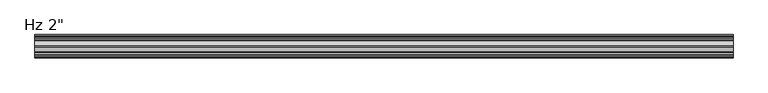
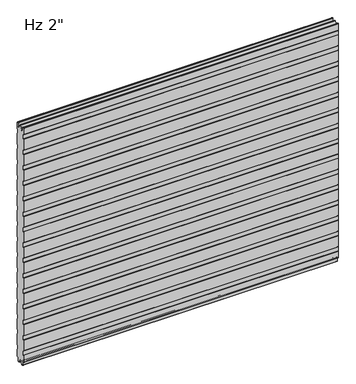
"""IFC4 building model written with IfcOpenShell, lengths in millimetres: plate geometry."""

from ifc_helpers import new_model, si_unit, frame, origin, place, context, project, spatial, polyline, circle_curve, source, transform, mapped, element, save
from ifc_brep_helpers import plane_surface, cylinder_surface, revolved_surface, advanced_brep


def plate_fe6489eb(model_context):
    return source(origin(), model_context, "Body", "AdvancedBrep", [
        advanced_brep(
        [(-730.0, -47.8224577, 3.8505994), (-730.0, -49.8005126, 5.8286544), (-730.0, -49.8005126, 37.993811), (-730.0, -48.6088405, 39.0663358), (-730.0, -48.6088405, 58.8493305), (-730.0, -49.8, 59.9218553), (-730.0, -49.8, 113.6164312), (-730.0, -48.6088405, 114.6889561), (-730.0, -48.6088405, 134.4719507), (-730.0, -49.8, 135.5444756), (-730.0, -49.8, 189.2390515), (-730.0, -48.6088405, 190.3115763), (-730.0, -48.6088405, 210.094571), (-730.0, -49.8, 211.1670958), (-730.0, -49.8, 264.8616718), (-730.0, -48.6088405, 265.9341966), (-730.0, -48.6088405, 285.7171913), (-730.0, -49.8, 286.7897161), (-730.0, -49.8, 340.484292), (-730.0, -48.6088405, 341.5568169), (-730.0, -48.6088405, 361.3398115), (-730.0, -49.8, 362.4123364), (-730.0, -49.8, 416.1069123), (-730.0, -48.6088405, 417.1794371), (-730.0, -48.6088405, 436.9624318), (-730.0, -49.8, 438.0349566), (-730.0, -49.8, 491.7295325), (-730.0, -48.6088405, 492.8020574), (-730.0, -48.6088405, 512.5850521), (-730.0, -49.8, 513.6575769), (-730.0, -49.8, 567.3521528), (-730.0, -48.6088405, 568.4246776), (-730.0, -48.6088405, 588.2076723), (-730.0, -49.8, 589.2801972), (-730.0, -49.8, 642.9747731), (-730.0, -48.6088405, 644.0472979), (-730.0, -48.6088405, 663.8302926), (-730.0, -49.8, 664.9028174), (-730.0, -49.8, 718.5973933), (-730.0, -48.6088405, 719.6699182), (-730.0, -48.6088405, 739.4529129), (-730.0, -49.8, 740.5254377), (-730.0, -49.8, 794.2200136), (-730.0, -48.6088405, 795.2925384), (-730.0, -48.6088405, 815.0755331), (-730.0, -49.8, 816.148058), (-730.0, -49.8, 869.8426339), (-730.0, -48.6088405, 870.9151587), (-730.0, -48.6088405, 890.6981534), (-730.0, -49.8, 891.7706782), (-730.0, -49.8, 945.4652541), (-730.0, -48.6088405, 946.537779), (-730.0, -48.6088405, 966.3207736), (-730.0, -49.8, 967.3932985), (-730.0, -49.8, 1021.0878744), (-730.0, -48.6088405, 1022.1603992), (-730.0, -48.6088405, 1041.9433939), (-730.0, -49.8, 1043.0159187), (-730.0, -49.8, 1096.7104947), (-730.0, -48.6088405, 1097.7830195), (-730.0, -48.6088405, 1117.5660142), (-730.0, -49.7994792, 1118.6385351), (-730.0, -49.7994792, 1150.811495), (-730.0, -47.8229897, 1152.7879845), (-730.0, -46.7807951, 1152.7879845), (-730.0, -44.8032009, 1150.8103903), (-730.0, -44.8032009, 1136.6216411), (-730.0, -42.2154073, 1134.0338476), (-730.0, -37.8950765, 1134.0338476), (-730.0, -37.3060626, 1133.4253475), (-730.0, -37.3060626, 1131.0482432), (-730.0, -36.3066023, 1131.0482432), (-730.0, -36.3066023, 1136.4905123), (-730.0, -27.0490865, 1152.525), (-730.0, -23.7509179, 1152.525), (-730.0, -14.4934021, 1136.4905123), (-730.0, -14.4934021, 1131.0482432), (-730.0, -13.4939282, 1131.0482432), (-730.0, -13.4939282, 1133.4253365), (-730.0, -12.9049347, 1134.0338036), (-730.0, -8.5845165, 1134.0338036), (-730.0, -5.99664, 1136.6216802), (-730.0, -5.99664, 1150.8100652), (-730.0, -4.0193715, 1152.7873337), (-730.0, -2.9772729, 1152.7873337), (-730.0, -1.0000044, 1150.8100652), (-730.0, -1.0000044, 1118.6390042), (-730.0, -2.1911639, 1117.5660142), (-730.0, -2.1911639, 1097.7830195), (-730.0, -1.0000044, 1096.7104947), (-730.0, -1.0000044, 1043.0159187), (-730.0, -2.1911639, 1041.9433939), (-730.0, -2.1911639, 1022.1603992), (-730.0, -1.0000044, 1021.0878744), (-730.0, -1.0000044, 967.3932985), (-730.0, -2.1911639, 966.3207736), (-730.0, -2.1911639, 946.537779), (-730.0, -1.0000044, 945.4652541), (-730.0, -1.0000044, 891.7706782), (-730.0, -2.1911639, 890.6981534), (-730.0, -2.1911639, 870.9151587), (-730.0, -1.0000044, 869.8426339), (-730.0, -1.0000044, 816.148058), (-730.0, -2.1911639, 815.0755331), (-730.0, -2.1911639, 795.2925384), (-730.0, -1.0000044, 794.2200136), (-730.0, -1.0000044, 740.5254377), (-730.0, -2.1911639, 739.4529129), (-730.0, -2.1911639, 719.6699182), (-730.0, -1.0000044, 718.5973933), (-730.0, -1.0000044, 664.9028174), (-730.0, -2.1911639, 663.8302926), (-730.0, -2.1911639, 644.0472979), (-730.0, -1.0000044, 642.9747731), (-730.0, -1.0000044, 589.2801972), (-730.0, -2.1911639, 588.2076723), (-730.0, -2.1911639, 568.4246776), (-730.0, -1.0000044, 567.3521528), (-730.0, -1.0000044, 513.6575769), (-730.0, -2.1911639, 512.5850521), (-730.0, -2.1911639, 492.8020574), (-730.0, -1.0000044, 491.7295325), (-730.0, -1.0000044, 438.0349566), (-730.0, -2.1911639, 436.9624318), (-730.0, -2.1911639, 417.1794371), (-730.0, -1.0000044, 416.1069123), (-730.0, -1.0000044, 362.4123364), (-730.0, -2.1911639, 361.3398115), (-730.0, -2.1911639, 341.5568169), (-730.0, -1.0000044, 340.484292), (-730.0, -1.0000044, 286.7897161), (-730.0, -2.1911639, 285.7171913), (-730.0, -2.1911639, 265.9341966), (-730.0, -1.0000044, 264.8616718), (-730.0, -1.0000044, 211.1670958), (-730.0, -2.1911639, 210.094571), (-730.0, -2.1911639, 190.3115763), (-730.0, -1.0000044, 189.2390515), (-730.0, -1.0000044, 135.5444756), (-730.0, -2.1911639, 134.4719507), (-730.0, -2.1911639, 114.6889561), (-730.0, -1.0000044, 113.6164312), (-730.0, -1.0000044, 59.9218553), (-730.0, -2.1911639, 58.8493305), (-730.0, -2.1911639, 39.0663358), (-730.0, -0.9994917, 37.993811), (-730.0, -0.9994917, 5.8272239), (-730.0, -2.9772849, 3.8499499), (-730.0, -5.2691749, 3.8499499), (-730.0, -9.246442, -0.1273173), (-730.0, -9.246442, -15.7237417), (-730.0, -9.8343189, -16.3116186), (-730.0, -12.9058679, -16.3116186), (-730.0, -13.4937446, -15.723742), (-730.0, -13.4937446, -13.3687064), (-730.0, -14.4937446, -13.3687064), (-730.0, -14.4937446, -15.6582851), (-730.0, -23.7509179, 0.0), (-730.0, -27.0490865, 0.0), (-730.0, -36.3062598, -15.6582851), (-730.0, -36.3062598, -13.3687064), (-730.0, -37.306275, -13.3687064), (-730.0, -37.306275, -15.723723), (-730.0, -37.8941288, -16.3115768), (-730.0, -40.9656046, -16.3115768), (-730.0, -41.5533997, -15.7237817), (-730.0, -41.5533997, -0.1269926), (-730.0, -45.5309917, 3.8505994), (730.0, -47.8224577, 3.8505994), (730.0, -45.5309917, 3.8505994), (730.0, -41.5533997, -0.1269926), (730.0, -41.5533997, -15.7237817), (730.0, -40.9656046, -16.3115768), (730.0, -37.8941288, -16.3115768), (730.0, -37.306275, -15.723723), (730.0, -37.306275, -13.3687064), (730.0, -36.3062598, -13.3687064), (730.0, -36.3062598, -15.6582851), (730.0, -27.0490865, 0.0), (730.0, -23.7509179, 0.0), (730.0, -14.4937446, -15.6582851), (730.0, -14.4937446, -13.3687064), (730.0, -13.4937446, -13.3687064), (730.0, -13.4937446, -15.723742), (730.0, -12.9058679, -16.3116186), (730.0, -9.8343189, -16.3116186), (730.0, -9.246442, -15.7237417), (730.0, -9.246442, -0.1273173), (730.0, -5.2691749, 3.8499499), (730.0, -2.9772849, 3.8499499), (730.0, -1.0000109, 5.8272239), (730.0, -0.9994917, 37.993811), (730.0, -2.1911639, 39.0663358), (730.0, -2.1911639, 58.8493305), (730.0, -1.0000044, 59.9218553), (730.0, -1.0000044, 113.6164312), (730.0, -2.1911639, 114.6889561), (730.0, -2.1911639, 134.4719507), (730.0, -1.0000044, 135.5444756), (730.0, -1.0000044, 189.2390515), (730.0, -2.1911639, 190.3115763), (730.0, -2.1911639, 210.094571), (730.0, -1.0000044, 211.1670958), (730.0, -1.0000044, 264.8616718), (730.0, -2.1911639, 265.9341966), (730.0, -2.1911639, 285.7171913), (730.0, -1.0000044, 286.7897161), (730.0, -1.0000044, 340.484292), (730.0, -2.1911639, 341.5568169), (730.0, -2.1911639, 361.3398115), (730.0, -1.0000044, 362.4123364), (730.0, -1.0000044, 416.1069123), (730.0, -2.1911639, 417.1794371), (730.0, -2.1911639, 436.9624318), (730.0, -1.0000044, 438.0349566), (730.0, -1.0000044, 491.7295325), (730.0, -2.1911639, 492.8020574), (730.0, -2.1911639, 512.5850521), (730.0, -1.0000044, 513.6575769), (730.0, -1.0000044, 567.3521528), (730.0, -2.1911639, 568.4246776), (730.0, -2.1911639, 588.2076723), (730.0, -1.0000044, 589.2801972), (730.0, -1.0000044, 642.9747731), (730.0, -2.1911639, 644.0472979), (730.0, -2.1911639, 663.8302926), (730.0, -1.0000044, 664.9028174), (730.0, -1.0000044, 718.5973933), (730.0, -2.1911639, 719.6699182), (730.0, -2.1911639, 739.4529129), (730.0, -1.0000044, 740.5254377), (730.0, -1.0000044, 794.2200136), (730.0, -2.1911639, 795.2925384), (730.0, -2.1911639, 815.0755331), (730.0, -1.0000044, 816.148058), (730.0, -1.0000044, 869.8426339), (730.0, -2.1911639, 870.9151587), (730.0, -2.1911639, 890.6981534), (730.0, -1.0000044, 891.7706782), (730.0, -1.0000044, 945.4652541), (730.0, -2.1911639, 946.537779), (730.0, -2.1911639, 966.3207736), (730.0, -1.0000044, 967.3932985), (730.0, -1.0000044, 1021.0878744), (730.0, -2.1911639, 1022.1603992), (730.0, -2.1911639, 1041.9433939), (730.0, -1.0000044, 1043.0159187), (730.0, -1.0000044, 1096.7104947), (730.0, -2.1911639, 1097.7830195), (730.0, -2.1911639, 1117.5660142), (730.0, -1.0000044, 1118.6390042), (730.0, -1.0000044, 1150.8100652), (730.0, -2.9772729, 1152.7873337), (730.0, -4.0193715, 1152.7873337), (730.0, -5.99664, 1150.8100652), (730.0, -5.99664, 1136.6216802), (730.0, -8.5845165, 1134.0338036), (730.0, -12.9049347, 1134.0338036), (730.0, -13.4939282, 1133.4253365), (730.0, -13.4939282, 1131.0482432), (730.0, -14.4934021, 1131.0482432), (730.0, -14.4934021, 1136.4905123), (730.0, -23.7509179, 1152.525), (730.0, -27.0490865, 1152.525), (730.0, -36.3066023, 1136.4905123), (730.0, -36.3066023, 1131.0482432), (730.0, -37.3060626, 1131.0482432), (730.0, -37.3060626, 1133.4253475), (730.0, -37.8950765, 1134.0338476), (730.0, -42.2154073, 1134.0338476), (730.0, -44.8032009, 1136.6216411), (730.0, -44.8032009, 1150.8103903), (730.0, -46.7807951, 1152.7879845), (730.0, -47.8229897, 1152.7879845), (730.0, -49.7994792, 1150.811495), (730.0, -49.7994792, 1118.6385351), (730.0, -48.6088405, 1117.5660142), (730.0, -48.6088405, 1097.7830195), (730.0, -49.8, 1096.7104947), (730.0, -49.8, 1043.0159187), (730.0, -48.6088405, 1041.9433939), (730.0, -48.6088405, 1022.1603992), (730.0, -49.8, 1021.0878744), (730.0, -49.8, 967.3932985), (730.0, -48.6088405, 966.3207736), (730.0, -48.6088405, 946.537779), (730.0, -49.8, 945.4652541), (730.0, -49.8, 891.7706782), (730.0, -48.6088405, 890.6981534), (730.0, -48.6088405, 870.9151587), (730.0, -49.8, 869.8426339), (730.0, -49.8, 816.148058), (730.0, -48.6088405, 815.0755331), (730.0, -48.6088405, 795.2925384), (730.0, -49.8, 794.2200136), (730.0, -49.8, 740.5254377), (730.0, -48.6088405, 739.4529129), (730.0, -48.6088405, 719.6699182), (730.0, -49.8, 718.5973933), (730.0, -49.8, 664.9028174), (730.0, -48.6088405, 663.8302926), (730.0, -48.6088405, 644.0472979), (730.0, -49.8, 642.9747731), (730.0, -49.8, 589.2801972), (730.0, -48.6088405, 588.2076723), (730.0, -48.6088405, 568.4246776), (730.0, -49.8, 567.3521528), (730.0, -49.8, 513.6575769), (730.0, -48.6088405, 512.5850521), (730.0, -48.6088405, 492.8020574), (730.0, -49.8, 491.7295325), (730.0, -49.8, 438.0349566), (730.0, -48.6088405, 436.9624318), (730.0, -48.6088405, 417.1794371), (730.0, -49.8, 416.1069123), (730.0, -49.8, 362.4123364), (730.0, -48.6088405, 361.3398115), (730.0, -48.6088405, 341.5568169), (730.0, -49.8, 340.484292), (730.0, -49.8, 286.7897161), (730.0, -48.6088405, 285.7171913), (730.0, -48.6088405, 265.9341966), (730.0, -49.8, 264.8616718), (730.0, -49.8, 211.1670958), (730.0, -48.6088405, 210.094571), (730.0, -48.6088405, 190.3115763), (730.0, -49.8, 189.2390515), (730.0, -49.8, 135.5444756), (730.0, -48.6088405, 134.4719507), (730.0, -48.6088405, 114.6889561), (730.0, -49.8, 113.6164312), (730.0, -49.8, 59.9218553), (730.0, -48.6088405, 58.8493305), (730.0, -48.6088405, 39.0663358), (730.0, -49.8005126, 37.993811), (730.0, -49.8005126, 5.8286544)],
        [
            (0, 1, circle_curve(frame((-730.0, -47.8224577, 5.8286544), z_axis=(-1.0, 0.0, 0.0), x_axis=(0.0, 0.0, -1.0)), 1.978055)),
            (1, 2),
            (2, 3),
            (3, 4),
            (4, 5),
            (5, 6),
            (6, 7),
            (7, 8),
            (8, 9),
            (9, 10),
            (10, 11),
            (11, 12),
            (12, 13),
            (13, 14),
            (14, 15),
            (15, 16),
            (16, 17),
            (17, 18),
            (18, 19),
            (19, 20),
            (20, 21),
            (21, 22),
            (22, 23),
            (23, 24),
            (24, 25),
            (25, 26),
            (26, 27),
            (27, 28),
            (28, 29),
            (29, 30),
            (30, 31),
            (31, 32),
            (32, 33),
            (33, 34),
            (34, 35),
            (35, 36),
            (36, 37),
            (37, 38),
            (38, 39),
            (39, 40),
            (40, 41),
            (41, 42),
            (42, 43),
            (43, 44),
            (44, 45),
            (45, 46),
            (46, 47),
            (47, 48),
            (48, 49),
            (49, 50),
            (50, 51),
            (51, 52),
            (52, 53),
            (53, 54),
            (54, 55),
            (55, 56),
            (56, 57),
            (57, 58),
            (58, 59),
            (59, 60),
            (60, 61),
            (61, 62),
            (62, 63, circle_curve(frame((-730.0, -47.8229897, 1150.811495), z_axis=(-1.0, 0.0, 0.0), x_axis=(0.0, 0.0, -1.0)), 1.9764896)),
            (63, 64),
            (64, 65, circle_curve(frame((-730.0, -46.7807951, 1150.8103903), z_axis=(-1.0, 0.0, 0.0), x_axis=(0.0, 0.0, -1.0)), 1.9775943)),
            (65, 66),
            (66, 67, circle_curve(frame((-730.0, -42.2154073, 1136.6216411), z_axis=(1.0, 0.0, 0.0), x_axis=(0.0, 0.0, -1.0)), 2.5877935)),
            (67, 68),
            (68, 69, circle_curve(frame((-730.0, -37.8950765, 1133.4445216), z_axis=(-1.0, 0.0, 0.0), x_axis=(0.0, 0.0, -1.0)), 0.589326)),
            (69, 70),
            (70, 71),
            (71, 72),
            (72, 73),
            (73, 74),
            (74, 75),
            (75, 76),
            (76, 77),
            (77, 78),
            (78, 79, circle_curve(frame((-730.0, -12.9049347, 1133.4444985), z_axis=(-1.0, 0.0, 0.0), x_axis=(0.0, 0.0, -1.0)), 0.5893051)),
            (79, 80),
            (80, 81, circle_curve(frame((-730.0, -8.5845165, 1136.6216802), z_axis=(1.0, 0.0, 0.0), x_axis=(0.0, 0.0, -1.0)), 2.5878765)),
            (81, 82),
            (82, 83, circle_curve(frame((-730.0, -4.0193715, 1150.8100652), z_axis=(-1.0, 0.0, 0.0), x_axis=(0.0, 0.0, -1.0)), 1.9772685)),
            (83, 84),
            (84, 85, circle_curve(frame((-730.0, -2.9772729, 1150.8100652), z_axis=(-1.0, 0.0, 0.0), x_axis=(0.0, 0.0, -1.0)), 1.9772685)),
            (85, 86),
            (86, 87),
            (87, 88),
            (88, 89),
            (89, 90),
            (90, 91),
            (91, 92),
            (92, 93),
            (93, 94),
            (94, 95),
            (95, 96),
            (96, 97),
            (97, 98),
            (98, 99),
            (99, 100),
            (100, 101),
            (101, 102),
            (102, 103),
            (103, 104),
            (104, 105),
            (105, 106),
            (106, 107),
            (107, 108),
            (108, 109),
            (109, 110),
            (110, 111),
            (111, 112),
            (112, 113),
            (113, 114),
            (114, 115),
            (115, 116),
            (116, 117),
            (117, 118),
            (118, 119),
            (119, 120),
            (120, 121),
            (121, 122),
            (122, 123),
            (123, 124),
            (124, 125),
            (125, 126),
            (126, 127),
            (127, 128),
            (128, 129),
            (129, 130),
            (130, 131),
            (131, 132),
            (132, 133),
            (133, 134),
            (134, 135),
            (135, 136),
            (136, 137),
            (137, 138),
            (138, 139),
            (139, 140),
            (140, 141),
            (141, 142),
            (142, 143),
            (143, 144),
            (144, 145),
            (145, 146),
            (146, 147, circle_curve(frame((-730.0, -2.9772849, 5.8272239), z_axis=(-1.0, 0.0, 0.0), x_axis=(0.0, 0.0, -1.0)), 1.977274)),
            (147, 148),
            (148, 149, circle_curve(frame((-730.0, -5.2691749, -0.1273173), z_axis=(1.0, 0.0, 0.0), x_axis=(0.0, 0.0, -1.0)), 3.9772671)),
            (149, 150),
            (150, 151, circle_curve(frame((-730.0, -9.8343189, -15.7237417), z_axis=(-1.0, 0.0, 0.0), x_axis=(0.0, 0.0, -1.0)), 0.5878769)),
            (151, 152),
            (152, 153, circle_curve(frame((-730.0, -12.9058679, -15.723742), z_axis=(-1.0, 0.0, 0.0), x_axis=(0.0, 0.0, -1.0)), 0.5878766)),
            (153, 154),
            (154, 155),
            (155, 156),
            (156, 157),
            (157, 158),
            (158, 159),
            (159, 160),
            (160, 161),
            (161, 162),
            (162, 163, circle_curve(frame((-730.0, -37.8941288, -15.723723), z_axis=(-1.0, 0.0, 0.0), x_axis=(0.0, 0.0, -1.0)), 0.5878538)),
            (163, 164),
            (164, 165, circle_curve(frame((-730.0, -40.9656046, -15.7237817), z_axis=(-1.0, 0.0, 0.0), x_axis=(0.0, 0.0, -1.0)), 0.5877951)),
            (165, 166),
            (166, 167, circle_curve(frame((-730.0, -45.5309917, -0.1269926), z_axis=(1.0, 0.0, 0.0), x_axis=(0.0, 0.0, -1.0)), 3.977592)),
            (167, 0),
            (168, 169),
            (169, 170, circle_curve(frame((730.0, -45.5309917, -0.1269926), z_axis=(-1.0, 0.0, 0.0), x_axis=(0.0, 0.0, -1.0)), 3.977592)),
            (170, 171),
            (171, 172, circle_curve(frame((730.0, -40.9656046, -15.7237817), z_axis=(1.0, 0.0, 0.0), x_axis=(0.0, 0.0, -1.0)), 0.5877951)),
            (172, 173),
            (173, 174, circle_curve(frame((730.0, -37.8941288, -15.723723), z_axis=(1.0, 0.0, 0.0), x_axis=(0.0, 0.0, -1.0)), 0.5878538)),
            (174, 175),
            (175, 176),
            (176, 177),
            (177, 178),
            (178, 179),
            (179, 180),
            (180, 181),
            (181, 182),
            (182, 183),
            (183, 184, circle_curve(frame((730.0, -12.9058679, -15.723742), z_axis=(1.0, 0.0, 0.0), x_axis=(0.0, 0.0, -1.0)), 0.5878766)),
            (184, 185),
            (185, 186, circle_curve(frame((730.0, -9.8343189, -15.7237417), z_axis=(1.0, 0.0, 0.0), x_axis=(0.0, 0.0, -1.0)), 0.5878769)),
            (186, 187),
            (187, 188, circle_curve(frame((730.0, -5.2691749, -0.1273173), z_axis=(-1.0, 0.0, 0.0), x_axis=(0.0, 0.0, -1.0)), 3.9772671)),
            (188, 189),
            (189, 190, circle_curve(frame((730.0, -2.9772849, 5.8272239), z_axis=(1.0, 0.0, 0.0), x_axis=(0.0, 0.0, -1.0)), 1.977274)),
            (190, 191),
            (191, 192),
            (192, 193),
            (193, 194),
            (194, 195),
            (195, 196),
            (196, 197),
            (197, 198),
            (198, 199),
            (199, 200),
            (200, 201),
            (201, 202),
            (202, 203),
            (203, 204),
            (204, 205),
            (205, 206),
            (206, 207),
            (207, 208),
            (208, 209),
            (209, 210),
            (210, 211),
            (211, 212),
            (212, 213),
            (213, 214),
            (214, 215),
            (215, 216),
            (216, 217),
            (217, 218),
            (218, 219),
            (219, 220),
            (220, 221),
            (221, 222),
            (222, 223),
            (223, 224),
            (224, 225),
            (225, 226),
            (226, 227),
            (227, 228),
            (228, 229),
            (229, 230),
            (230, 231),
            (231, 232),
            (232, 233),
            (233, 234),
            (234, 235),
            (235, 236),
            (236, 237),
            (237, 238),
            (238, 239),
            (239, 240),
            (240, 241),
            (241, 242),
            (242, 243),
            (243, 244),
            (244, 245),
            (245, 246),
            (246, 247),
            (247, 248),
            (248, 249),
            (249, 250),
            (250, 251),
            (251, 252, circle_curve(frame((730.0, -2.9772729, 1150.8100652), z_axis=(1.0, 0.0, 0.0), x_axis=(0.0, 0.0, -1.0)), 1.9772685)),
            (252, 253),
            (253, 254, circle_curve(frame((730.0, -4.0193715, 1150.8100652), z_axis=(1.0, 0.0, 0.0), x_axis=(0.0, 0.0, -1.0)), 1.9772685)),
            (254, 255),
            (255, 256, circle_curve(frame((730.0, -8.5845165, 1136.6216802), z_axis=(-1.0, 0.0, 0.0), x_axis=(0.0, 0.0, -1.0)), 2.5878765)),
            (256, 257),
            (257, 258, circle_curve(frame((730.0, -12.9049347, 1133.4444985), z_axis=(1.0, 0.0, 0.0), x_axis=(0.0, 0.0, -1.0)), 0.5893051)),
            (258, 259),
            (259, 260),
            (260, 261),
            (261, 262),
            (262, 263),
            (263, 264),
            (264, 265),
            (265, 266),
            (266, 267),
            (267, 268, circle_curve(frame((730.0, -37.8950765, 1133.4445216), z_axis=(1.0, 0.0, 0.0), x_axis=(0.0, 0.0, -1.0)), 0.589326)),
            (268, 269),
            (269, 270, circle_curve(frame((730.0, -42.2154073, 1136.6216411), z_axis=(-1.0, 0.0, 0.0), x_axis=(0.0, 0.0, -1.0)), 2.5877935)),
            (270, 271),
            (271, 272, circle_curve(frame((730.0, -46.7807951, 1150.8103903), z_axis=(1.0, 0.0, 0.0), x_axis=(0.0, 0.0, -1.0)), 1.9775943)),
            (272, 273),
            (273, 274, circle_curve(frame((730.0, -47.8229897, 1150.811495), z_axis=(1.0, 0.0, 0.0), x_axis=(0.0, 0.0, -1.0)), 1.9764896)),
            (274, 275),
            (275, 276),
            (276, 277),
            (277, 278),
            (278, 279),
            (279, 280),
            (280, 281),
            (281, 282),
            (282, 283),
            (283, 284),
            (284, 285),
            (285, 286),
            (286, 287),
            (287, 288),
            (288, 289),
            (289, 290),
            (290, 291),
            (291, 292),
            (292, 293),
            (293, 294),
            (294, 295),
            (295, 296),
            (296, 297),
            (297, 298),
            (298, 299),
            (299, 300),
            (300, 301),
            (301, 302),
            (302, 303),
            (303, 304),
            (304, 305),
            (305, 306),
            (306, 307),
            (307, 308),
            (308, 309),
            (309, 310),
            (310, 311),
            (311, 312),
            (312, 313),
            (313, 314),
            (314, 315),
            (315, 316),
            (316, 317),
            (317, 318),
            (318, 319),
            (319, 320),
            (320, 321),
            (321, 322),
            (322, 323),
            (323, 324),
            (324, 325),
            (325, 326),
            (326, 327),
            (327, 328),
            (328, 329),
            (329, 330),
            (330, 331),
            (331, 332),
            (332, 333),
            (333, 334),
            (334, 335),
            (335, 168, circle_curve(frame((730.0, -47.8224577, 5.8286544), z_axis=(1.0, 0.0, 0.0), x_axis=(0.0, 0.0, -1.0)), 1.978055)),
            (167, 169),
            (168, 0),
            (166, 170),
            (165, 171),
            (164, 172),
            (163, 173),
            (162, 174),
            (161, 175),
            (160, 176),
            (159, 177),
            (158, 178),
            (157, 179),
            (156, 180),
            (155, 181),
            (154, 182),
            (153, 183),
            (152, 184),
            (151, 185),
            (150, 186),
            (149, 187),
            (148, 188),
            (147, 189),
            (146, 190),
            (145, 191),
            (144, 192),
            (143, 193),
            (142, 194),
            (141, 195),
            (140, 196),
            (139, 197),
            (138, 198),
            (137, 199),
            (136, 200),
            (135, 201),
            (134, 202),
            (133, 203),
            (132, 204),
            (131, 205),
            (130, 206),
            (129, 207),
            (128, 208),
            (127, 209),
            (126, 210),
            (125, 211),
            (124, 212),
            (123, 213),
            (122, 214),
            (121, 215),
            (120, 216),
            (119, 217),
            (118, 218),
            (117, 219),
            (116, 220),
            (115, 221),
            (114, 222),
            (113, 223),
            (112, 224),
            (111, 225),
            (110, 226),
            (109, 227),
            (108, 228),
            (107, 229),
            (106, 230),
            (105, 231),
            (104, 232),
            (103, 233),
            (102, 234),
            (101, 235),
            (100, 236),
            (99, 237),
            (98, 238),
            (97, 239),
            (96, 240),
            (95, 241),
            (94, 242),
            (93, 243),
            (92, 244),
            (91, 245),
            (90, 246),
            (89, 247),
            (88, 248),
            (87, 249),
            (86, 250),
            (85, 251),
            (84, 252),
            (83, 253),
            (82, 254),
            (81, 255),
            (80, 256),
            (79, 257),
            (78, 258),
            (77, 259),
            (76, 260),
            (75, 261),
            (74, 262),
            (73, 263),
            (72, 264),
            (71, 265),
            (70, 266),
            (69, 267),
            (68, 268),
            (67, 269),
            (66, 270),
            (65, 271),
            (64, 272),
            (63, 273),
            (62, 274),
            (61, 275),
            (60, 276),
            (59, 277),
            (58, 278),
            (57, 279),
            (56, 280),
            (55, 281),
            (54, 282),
            (53, 283),
            (52, 284),
            (51, 285),
            (50, 286),
            (49, 287),
            (48, 288),
            (47, 289),
            (46, 290),
            (45, 291),
            (44, 292),
            (43, 293),
            (42, 294),
            (41, 295),
            (40, 296),
            (39, 297),
            (38, 298),
            (37, 299),
            (36, 300),
            (35, 301),
            (34, 302),
            (33, 303),
            (32, 304),
            (31, 305),
            (30, 306),
            (29, 307),
            (28, 308),
            (27, 309),
            (26, 310),
            (25, 311),
            (24, 312),
            (23, 313),
            (22, 314),
            (21, 315),
            (20, 316),
            (19, 317),
            (18, 318),
            (17, 319),
            (16, 320),
            (15, 321),
            (14, 322),
            (13, 323),
            (12, 324),
            (11, 325),
            (10, 326),
            (9, 327),
            (8, 328),
            (7, 329),
            (6, 330),
            (5, 331),
            (4, 332),
            (3, 333),
            (2, 334),
            (1, 335),
        ],
        [
            plane_surface(frame((-730.0, -49.8, 576.2625), z_axis=(-1.0, 0.0, 0.0), x_axis=(0.0, -1.0, 0.0))),
            plane_surface(frame((730.0, -49.8, 576.2625), z_axis=(1.0, 0.0, 0.0), x_axis=(0.0, -1.0, 0.0))),
            plane_surface(frame((-730.0, -47.8224577, 3.8505994), z_axis=(0.0, 0.0, -1.0), x_axis=(1.0, 0.0, 0.0))),
            revolved_surface(polyline([(730.0, -45.5309917, -4.1045846), (-730.0, -45.5309917, -4.1045846)]), (-730.0, -45.5309917, -0.1269926), (1.0, 0.0, 0.0)),
            plane_surface(frame((-730.0, -41.5533997, -0.1269926), z_axis=(0.0, -1.0, 0.0), x_axis=(1.0, 0.0, 0.0))),
            cylinder_surface(frame((-730.0, -40.9656046, -15.7237817), z_axis=(-1.0, 0.0, 0.0), x_axis=(0.0, 0.0, -1.0)), 0.5877951),
            plane_surface(frame((-730.0, -40.9656046, -16.3115768), z_axis=(0.0, 0.0, -1.0), x_axis=(1.0, 0.0, 0.0))),
            cylinder_surface(frame((-730.0, -37.8941288, -15.723723), z_axis=(-1.0, 0.0, 0.0), x_axis=(0.0, 0.0, -1.0)), 0.5878538),
            plane_surface(frame((-730.0, -37.306275, -15.723723), z_axis=(0.0, 1.0, 0.0), x_axis=(1.0, 0.0, 0.0))),
            plane_surface(frame((-730.0, -37.306275, -13.3687064), z_axis=(0.0, 0.0, -1.0), x_axis=(1.0, 0.0, 0.0))),
            plane_surface(frame((-730.0, -36.3062598, -13.3687064), z_axis=(0.0, -1.0, 0.0), x_axis=(1.0, 0.0, 0.0))),
            plane_surface(frame((-730.0, -36.3062598, -15.6582851), z_axis=(0.0, 0.8608169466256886, -0.5089147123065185), x_axis=(1.0, 0.0, 0.0))),
            plane_surface(frame((-730.0, -27.0490865, 0.0), z_axis=(0.0, 0.0, -1.0), x_axis=(1.0, 0.0, 0.0))),
            plane_surface(frame((-730.0, -23.7509179, 0.0), z_axis=(0.0, -0.8608169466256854, -0.508914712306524), x_axis=(1.0, 0.0, 0.0))),
            plane_surface(frame((-730.0, -14.4937446, -15.6582851), z_axis=(0.0, 1.0, 0.0), x_axis=(1.0, 0.0, 0.0))),
            plane_surface(frame((-730.0, -14.4937446, -13.3687064), z_axis=(0.0, 0.0, -1.0), x_axis=(1.0, 0.0, 0.0))),
            plane_surface(frame((-730.0, -13.4937446, -13.3687064), z_axis=(0.0, -1.0, 0.0), x_axis=(1.0, 0.0, 0.0))),
            cylinder_surface(frame((-730.0, -12.9058679, -15.723742), z_axis=(-1.0, 0.0, 0.0), x_axis=(0.0, 0.0, -1.0)), 0.5878766),
            plane_surface(frame((-730.0, -12.9058679, -16.3116186), z_axis=(0.0, 0.0, -1.0), x_axis=(1.0, 0.0, 0.0))),
            cylinder_surface(frame((-730.0, -9.8343189, -15.7237417), z_axis=(-1.0, 0.0, 0.0), x_axis=(0.0, 0.0, -1.0)), 0.5878769),
            plane_surface(frame((-730.0, -9.246442, -15.7237417), z_axis=(0.0, 1.0, 0.0), x_axis=(1.0, 0.0, 0.0))),
            revolved_surface(polyline([(730.0, -5.2691749, -4.1045844), (-730.0, -5.2691749, -4.1045844)]), (-730.0, -5.2691749, -0.1273173), (1.0, 0.0, 0.0)),
            plane_surface(frame((-730.0, -5.2691749, 3.8499499), z_axis=(0.0, 0.0, -1.0), x_axis=(1.0, 0.0, 0.0))),
            cylinder_surface(frame((-730.0, -2.9772849, 5.8272239), z_axis=(-1.0, 0.0, 0.0), x_axis=(0.0, 0.0, -1.0)), 1.977274),
            plane_surface(frame((-730.0, -0.9994917, 5.8272239), z_axis=(0.0, 1.0, 0.0), x_axis=(1.0, 0.0, 0.0))),
            plane_surface(frame((-730.0, -0.9994917, 37.993811), z_axis=(0.0, 0.6689715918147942, 0.743287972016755), x_axis=(1.0, 0.0, 0.0))),
            plane_surface(frame((-730.0, -2.1911639, 39.0663358), z_axis=(0.0, 1.0, 0.0), x_axis=(1.0, 0.0, 0.0))),
            plane_surface(frame((-730.0, -2.1911639, 58.8493305), z_axis=(0.0, 0.6691306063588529, -0.7431448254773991), x_axis=(1.0, 0.0, 0.0))),
            plane_surface(frame((-730.0, -1.0000044, 59.9218553), z_axis=(0.0, 1.0, 0.0), x_axis=(1.0, 0.0, 0.0))),
            plane_surface(frame((-730.0, -1.0000044, 113.6164312), z_axis=(0.0, 0.6691306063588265, 0.7431448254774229), x_axis=(1.0, 0.0, 0.0))),
            plane_surface(frame((-730.0, -2.1911639, 114.6889561), z_axis=(0.0, 1.0, 0.0), x_axis=(1.0, 0.0, 0.0))),
            plane_surface(frame((-730.0, -2.1911639, 134.4719507), z_axis=(0.0, 0.6691306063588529, -0.7431448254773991), x_axis=(1.0, 0.0, 0.0))),
            plane_surface(frame((-730.0, -1.0000044, 135.5444756), z_axis=(0.0, 1.0, 0.0), x_axis=(1.0, 0.0, 0.0))),
            plane_surface(frame((-730.0, -1.0000044, 189.2390515), z_axis=(0.0, 0.669130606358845, 0.7431448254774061), x_axis=(1.0, 0.0, 0.0))),
            plane_surface(frame((-730.0, -2.1911639, 190.3115763), z_axis=(0.0, 1.0, 0.0), x_axis=(1.0, 0.0, 0.0))),
            plane_surface(frame((-730.0, -2.1911639, 210.094571), z_axis=(0.0, 0.6691306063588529, -0.7431448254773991), x_axis=(1.0, 0.0, 0.0))),
            plane_surface(frame((-730.0, -1.0000044, 211.1670958), z_axis=(0.0, 1.0, 0.0), x_axis=(1.0, 0.0, 0.0))),
            plane_surface(frame((-730.0, -1.0000044, 264.8616718), z_axis=(0.0, 0.6691306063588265, 0.7431448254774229), x_axis=(1.0, 0.0, 0.0))),
            plane_surface(frame((-730.0, -2.1911639, 265.9341966), z_axis=(0.0, 1.0, 0.0), x_axis=(1.0, 0.0, 0.0))),
            plane_surface(frame((-730.0, -2.1911639, 285.7171913), z_axis=(0.0, 0.6691306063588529, -0.7431448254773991), x_axis=(1.0, 0.0, 0.0))),
            plane_surface(frame((-730.0, -1.0000044, 286.7897161), z_axis=(0.0, 1.0, 0.0), x_axis=(1.0, 0.0, 0.0))),
            plane_surface(frame((-730.0, -1.0000044, 340.484292), z_axis=(0.0, 0.669130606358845, 0.7431448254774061), x_axis=(1.0, 0.0, 0.0))),
            plane_surface(frame((-730.0, -2.1911639, 341.5568169), z_axis=(0.0, 1.0, 0.0), x_axis=(1.0, 0.0, 0.0))),
            plane_surface(frame((-730.0, -2.1911639, 361.3398115), z_axis=(0.0, 0.6691306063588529, -0.7431448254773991), x_axis=(1.0, 0.0, 0.0))),
            plane_surface(frame((-730.0, -1.0000044, 362.4123364), z_axis=(0.0, 1.0, 0.0), x_axis=(1.0, 0.0, 0.0))),
            plane_surface(frame((-730.0, -1.0000044, 416.1069123), z_axis=(0.0, 0.669130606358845, 0.7431448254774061), x_axis=(1.0, 0.0, 0.0))),
            plane_surface(frame((-730.0, -2.1911639, 417.1794371), z_axis=(0.0, 1.0, 0.0), x_axis=(1.0, 0.0, 0.0))),
            plane_surface(frame((-730.0, -2.1911639, 436.9624318), z_axis=(0.0, 0.6691306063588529, -0.7431448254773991), x_axis=(1.0, 0.0, 0.0))),
            plane_surface(frame((-730.0, -1.0000044, 438.0349566), z_axis=(0.0, 1.0, 0.0), x_axis=(1.0, 0.0, 0.0))),
            plane_surface(frame((-730.0, -1.0000044, 491.7295325), z_axis=(0.0, 0.6691306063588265, 0.7431448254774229), x_axis=(1.0, 0.0, 0.0))),
            plane_surface(frame((-730.0, -2.1911639, 492.8020574), z_axis=(0.0, 1.0, 0.0), x_axis=(1.0, 0.0, 0.0))),
            plane_surface(frame((-730.0, -2.1911639, 512.5850521), z_axis=(0.0, 0.6691306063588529, -0.7431448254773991), x_axis=(1.0, 0.0, 0.0))),
            plane_surface(frame((-730.0, -1.0000044, 513.6575769), z_axis=(0.0, 1.0, 0.0), x_axis=(1.0, 0.0, 0.0))),
            plane_surface(frame((-730.0, -1.0000044, 567.3521528), z_axis=(0.0, 0.669130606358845, 0.7431448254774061), x_axis=(1.0, 0.0, 0.0))),
            plane_surface(frame((-730.0, -2.1911639, 568.4246776), z_axis=(0.0, 1.0, 0.0), x_axis=(1.0, 0.0, 0.0))),
            plane_surface(frame((-730.0, -2.1911639, 588.2076723), z_axis=(0.0, 0.6691306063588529, -0.7431448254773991), x_axis=(1.0, 0.0, 0.0))),
            plane_surface(frame((-730.0, -1.0000044, 589.2801972), z_axis=(0.0, 1.0, 0.0), x_axis=(1.0, 0.0, 0.0))),
            plane_surface(frame((-730.0, -1.0000044, 642.9747731), z_axis=(0.0, 0.6691306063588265, 0.7431448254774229), x_axis=(1.0, 0.0, 0.0))),
            plane_surface(frame((-730.0, -2.1911639, 644.0472979), z_axis=(0.0, 1.0, 0.0), x_axis=(1.0, 0.0, 0.0))),
            plane_surface(frame((-730.0, -2.1911639, 663.8302926), z_axis=(0.0, 0.6691306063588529, -0.7431448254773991), x_axis=(1.0, 0.0, 0.0))),
            plane_surface(frame((-730.0, -1.0000044, 664.9028174), z_axis=(0.0, 1.0, 0.0), x_axis=(1.0, 0.0, 0.0))),
            plane_surface(frame((-730.0, -1.0000044, 718.5973933), z_axis=(0.0, 0.669130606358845, 0.7431448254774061), x_axis=(1.0, 0.0, 0.0))),
            plane_surface(frame((-730.0, -2.1911639, 719.6699182), z_axis=(0.0, 1.0, 0.0), x_axis=(1.0, 0.0, 0.0))),
            plane_surface(frame((-730.0, -2.1911639, 739.4529129), z_axis=(0.0, 0.6691306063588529, -0.7431448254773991), x_axis=(1.0, 0.0, 0.0))),
            plane_surface(frame((-730.0, -1.0000044, 740.5254377), z_axis=(0.0, 1.0, 0.0), x_axis=(1.0, 0.0, 0.0))),
            plane_surface(frame((-730.0, -1.0000044, 794.2200136), z_axis=(0.0, 0.6691306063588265, 0.7431448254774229), x_axis=(1.0, 0.0, 0.0))),
            plane_surface(frame((-730.0, -2.1911639, 795.2925384), z_axis=(0.0, 1.0, 0.0), x_axis=(1.0, 0.0, 0.0))),
            plane_surface(frame((-730.0, -2.1911639, 815.0755331), z_axis=(0.0, 0.6691306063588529, -0.7431448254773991), x_axis=(1.0, 0.0, 0.0))),
            plane_surface(frame((-730.0, -1.0000044, 816.148058), z_axis=(0.0, 1.0, 0.0), x_axis=(1.0, 0.0, 0.0))),
            plane_surface(frame((-730.0, -1.0000044, 869.8426339), z_axis=(0.0, 0.669130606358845, 0.7431448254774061), x_axis=(1.0, 0.0, 0.0))),
            plane_surface(frame((-730.0, -2.1911639, 870.9151587), z_axis=(0.0, 1.0, 0.0), x_axis=(1.0, 0.0, 0.0))),
            plane_surface(frame((-730.0, -2.1911639, 890.6981534), z_axis=(0.0, 0.6691306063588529, -0.7431448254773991), x_axis=(1.0, 0.0, 0.0))),
            plane_surface(frame((-730.0, -1.0000044, 891.7706782), z_axis=(0.0, 1.0, 0.0), x_axis=(1.0, 0.0, 0.0))),
            plane_surface(frame((-730.0, -1.0000044, 945.4652541), z_axis=(0.0, 0.669130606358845, 0.7431448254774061), x_axis=(1.0, 0.0, 0.0))),
            plane_surface(frame((-730.0, -2.1911639, 946.537779), z_axis=(0.0, 1.0, 0.0), x_axis=(1.0, 0.0, 0.0))),
            plane_surface(frame((-730.0, -2.1911639, 966.3207736), z_axis=(0.0, 0.6691306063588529, -0.7431448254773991), x_axis=(1.0, 0.0, 0.0))),
            plane_surface(frame((-730.0, -1.0000044, 967.3932985), z_axis=(0.0, 1.0, 0.0), x_axis=(1.0, 0.0, 0.0))),
            plane_surface(frame((-730.0, -1.0000044, 1021.0878744), z_axis=(0.0, 0.669130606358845, 0.7431448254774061), x_axis=(1.0, 0.0, 0.0))),
            plane_surface(frame((-730.0, -2.1911639, 1022.1603992), z_axis=(0.0, 1.0, 0.0), x_axis=(1.0, 0.0, 0.0))),
            plane_surface(frame((-730.0, -2.1911639, 1041.9433939), z_axis=(0.0, 0.6691306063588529, -0.7431448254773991), x_axis=(1.0, 0.0, 0.0))),
            plane_surface(frame((-730.0, -1.0000044, 1043.0159187), z_axis=(0.0, 1.0, 0.0), x_axis=(1.0, 0.0, 0.0))),
            plane_surface(frame((-730.0, -1.0000044, 1096.7104947), z_axis=(0.0, 0.669130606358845, 0.7431448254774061), x_axis=(1.0, 0.0, 0.0))),
            plane_surface(frame((-730.0, -2.1911639, 1097.7830195), z_axis=(0.0, 1.0, 0.0), x_axis=(1.0, 0.0, 0.0))),
            plane_surface(frame((-730.0, -2.1911639, 1117.5660142), z_axis=(0.0, 0.6692908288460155, -0.7430005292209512), x_axis=(1.0, 0.0, 0.0))),
            plane_surface(frame((-730.0, -1.0000044, 1118.6390042), z_axis=(0.0, 1.0, 0.0), x_axis=(1.0, 0.0, 0.0))),
            cylinder_surface(frame((-730.0, -2.9772729, 1150.8100652), z_axis=(-1.0, 0.0, 0.0), x_axis=(0.0, 0.0, -1.0)), 1.9772685),
            plane_surface(frame((-730.0, -2.9772729, 1152.7873337), z_axis=(0.0, 0.0, 1.0), x_axis=(1.0, 0.0, 0.0))),
            cylinder_surface(frame((-730.0, -4.0193715, 1150.8100652), z_axis=(-1.0, 0.0, 0.0), x_axis=(0.0, 0.0, -1.0)), 1.9772685),
            plane_surface(frame((-730.0, -5.99664, 1150.8100652), z_axis=(0.0, -1.0, 0.0), x_axis=(1.0, 0.0, 0.0))),
            revolved_surface(polyline([(730.0, -8.5845165, 1134.0338037), (-730.0, -8.5845165, 1134.0338037)]), (-730.0, -8.5845165, 1136.6216802), (1.0, 0.0, 0.0)),
            plane_surface(frame((-730.0, -8.5845165, 1134.0338036), z_axis=(0.0, 0.0, 1.0), x_axis=(1.0, 0.0, 0.0))),
            cylinder_surface(frame((-730.0, -12.9049347, 1133.4444985), z_axis=(-1.0, 0.0, 0.0), x_axis=(0.0, 0.0, -1.0)), 0.5893051),
            plane_surface(frame((-730.0, -13.4939282, 1133.4253365), z_axis=(0.0, -1.0, 0.0), x_axis=(1.0, 0.0, 0.0))),
            plane_surface(frame((-730.0, -13.4939282, 1131.0482432), z_axis=(0.0, 0.0, 1.0), x_axis=(1.0, 0.0, 0.0))),
            plane_surface(frame((-730.0, -14.4934021, 1131.0482432), z_axis=(0.0, 1.0, 0.0), x_axis=(1.0, 0.0, 0.0))),
            plane_surface(frame((-730.0, -14.4934021, 1136.4905123), z_axis=(0.0, 0.8660254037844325, 0.5000000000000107), x_axis=(1.0, 0.0, 0.0))),
            plane_surface(frame((-730.0, -23.7509179, 1152.525), z_axis=(0.0, 0.0, 1.0), x_axis=(1.0, 0.0, 0.0))),
            plane_surface(frame((-730.0, -27.0490865, 1152.525), z_axis=(0.0, -0.8660254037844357, 0.5000000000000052), x_axis=(1.0, 0.0, 0.0))),
            plane_surface(frame((-730.0, -36.3066023, 1136.4905123), z_axis=(0.0, -1.0, 0.0), x_axis=(1.0, 0.0, 0.0))),
            plane_surface(frame((-730.0, -36.3066023, 1131.0482432), z_axis=(0.0, 0.0, 1.0), x_axis=(1.0, 0.0, 0.0))),
            plane_surface(frame((-730.0, -37.3060626, 1131.0482432), z_axis=(0.0, 1.0, 0.0), x_axis=(1.0, 0.0, 0.0))),
            cylinder_surface(frame((-730.0, -37.8950765, 1133.4445216), z_axis=(-1.0, 0.0, 0.0), x_axis=(0.0, 0.0, -1.0)), 0.589326),
            plane_surface(frame((-730.0, -37.8950765, 1134.0338476), z_axis=(0.0, 0.0, 1.0), x_axis=(1.0, 0.0, 0.0))),
            revolved_surface(polyline([(730.0, -42.2154073, 1134.0338476), (-730.0, -42.2154073, 1134.0338476)]), (-730.0, -42.2154073, 1136.6216411), (1.0, 0.0, 0.0)),
            plane_surface(frame((-730.0, -44.8032009, 1136.6216411), z_axis=(0.0, 1.0, 0.0), x_axis=(1.0, 0.0, 0.0))),
            cylinder_surface(frame((-730.0, -46.7807951, 1150.8103903), z_axis=(-1.0, 0.0, 0.0), x_axis=(0.0, 0.0, -1.0)), 1.9775943),
            plane_surface(frame((-730.0, -46.7807951, 1152.7879845), z_axis=(0.0, 0.0, 1.0), x_axis=(1.0, 0.0, 0.0))),
            cylinder_surface(frame((-730.0, -47.8229897, 1150.811495), z_axis=(-1.0, 0.0, 0.0), x_axis=(0.0, 0.0, -1.0)), 1.9764896),
            plane_surface(frame((-730.0, -49.7994792, 1150.811495), z_axis=(0.0, -1.0, 0.0), x_axis=(1.0, 0.0, 0.0))),
            plane_surface(frame((-730.0, -49.7994792, 1118.6385351), z_axis=(0.0, -0.6692908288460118, -0.7430005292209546), x_axis=(1.0, 0.0, 0.0))),
            plane_surface(frame((-730.0, -48.6088405, 1117.5660142), z_axis=(0.0, -1.0, 0.0), x_axis=(1.0, 0.0, 0.0))),
            plane_surface(frame((-730.0, -48.6088405, 1097.7830195), z_axis=(0.0, -0.6691306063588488, 0.7431448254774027), x_axis=(1.0, 0.0, 0.0))),
            plane_surface(frame((-730.0, -49.8, 1096.7104947), z_axis=(0.0, -1.0, 0.0), x_axis=(1.0, 0.0, 0.0))),
            plane_surface(frame((-730.0, -49.8, 1043.0159187), z_axis=(0.0, -0.6691306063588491, -0.7431448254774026), x_axis=(1.0, 0.0, 0.0))),
            plane_surface(frame((-730.0, -48.6088405, 1041.9433939), z_axis=(0.0, -1.0, 0.0), x_axis=(1.0, 0.0, 0.0))),
            plane_surface(frame((-730.0, -48.6088405, 1022.1603992), z_axis=(0.0, -0.6691306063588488, 0.7431448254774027), x_axis=(1.0, 0.0, 0.0))),
            plane_surface(frame((-730.0, -49.8, 1021.0878744), z_axis=(0.0, -1.0, 0.0), x_axis=(1.0, 0.0, 0.0))),
            plane_surface(frame((-730.0, -49.8, 967.3932985), z_axis=(0.0, -0.6691306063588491, -0.7431448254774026), x_axis=(1.0, 0.0, 0.0))),
            plane_surface(frame((-730.0, -48.6088405, 966.3207736), z_axis=(0.0, -1.0, 0.0), x_axis=(1.0, 0.0, 0.0))),
            plane_surface(frame((-730.0, -48.6088405, 946.537779), z_axis=(0.0, -0.6691306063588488, 0.7431448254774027), x_axis=(1.0, 0.0, 0.0))),
            plane_surface(frame((-730.0, -49.8, 945.4652541), z_axis=(0.0, -1.0, 0.0), x_axis=(1.0, 0.0, 0.0))),
            plane_surface(frame((-730.0, -49.8, 891.7706782), z_axis=(0.0, -0.6691306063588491, -0.7431448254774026), x_axis=(1.0, 0.0, 0.0))),
            plane_surface(frame((-730.0, -48.6088405, 890.6981534), z_axis=(0.0, -1.0, 0.0), x_axis=(1.0, 0.0, 0.0))),
            plane_surface(frame((-730.0, -48.6088405, 870.9151587), z_axis=(0.0, -0.6691306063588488, 0.7431448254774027), x_axis=(1.0, 0.0, 0.0))),
            plane_surface(frame((-730.0, -49.8, 869.8426339), z_axis=(0.0, -1.0, 0.0), x_axis=(1.0, 0.0, 0.0))),
            plane_surface(frame((-730.0, -49.8, 816.148058), z_axis=(0.0, -0.6691306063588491, -0.7431448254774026), x_axis=(1.0, 0.0, 0.0))),
            plane_surface(frame((-730.0, -48.6088405, 815.0755331), z_axis=(0.0, -1.0, 0.0), x_axis=(1.0, 0.0, 0.0))),
            plane_surface(frame((-730.0, -48.6088405, 795.2925384), z_axis=(0.0, -0.6691306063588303, 0.7431448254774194), x_axis=(1.0, 0.0, 0.0))),
            plane_surface(frame((-730.0, -49.8, 794.2200136), z_axis=(0.0, -1.0, 0.0), x_axis=(1.0, 0.0, 0.0))),
            plane_surface(frame((-730.0, -49.8, 740.5254377), z_axis=(0.0, -0.6691306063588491, -0.7431448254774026), x_axis=(1.0, 0.0, 0.0))),
            plane_surface(frame((-730.0, -48.6088405, 739.4529129), z_axis=(0.0, -1.0, 0.0), x_axis=(1.0, 0.0, 0.0))),
            plane_surface(frame((-730.0, -48.6088405, 719.6699182), z_axis=(0.0, -0.6691306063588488, 0.7431448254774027), x_axis=(1.0, 0.0, 0.0))),
            plane_surface(frame((-730.0, -49.8, 718.5973933), z_axis=(0.0, -1.0, 0.0), x_axis=(1.0, 0.0, 0.0))),
            plane_surface(frame((-730.0, -49.8, 664.9028174), z_axis=(0.0, -0.6691306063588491, -0.7431448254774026), x_axis=(1.0, 0.0, 0.0))),
            plane_surface(frame((-730.0, -48.6088405, 663.8302926), z_axis=(0.0, -1.0, 0.0), x_axis=(1.0, 0.0, 0.0))),
            plane_surface(frame((-730.0, -48.6088405, 644.0472979), z_axis=(0.0, -0.6691306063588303, 0.7431448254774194), x_axis=(1.0, 0.0, 0.0))),
            plane_surface(frame((-730.0, -49.8, 642.9747731), z_axis=(0.0, -1.0, 0.0), x_axis=(1.0, 0.0, 0.0))),
            plane_surface(frame((-730.0, -49.8, 589.2801972), z_axis=(0.0, -0.6691306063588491, -0.7431448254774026), x_axis=(1.0, 0.0, 0.0))),
            plane_surface(frame((-730.0, -48.6088405, 588.2076723), z_axis=(0.0, -1.0, 0.0), x_axis=(1.0, 0.0, 0.0))),
            plane_surface(frame((-730.0, -48.6088405, 568.4246776), z_axis=(0.0, -0.6691306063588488, 0.7431448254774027), x_axis=(1.0, 0.0, 0.0))),
            plane_surface(frame((-730.0, -49.8, 567.3521528), z_axis=(0.0, -1.0, 0.0), x_axis=(1.0, 0.0, 0.0))),
            plane_surface(frame((-730.0, -49.8, 513.6575769), z_axis=(0.0, -0.6691306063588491, -0.7431448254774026), x_axis=(1.0, 0.0, 0.0))),
            plane_surface(frame((-730.0, -48.6088405, 512.5850521), z_axis=(0.0, -1.0, 0.0), x_axis=(1.0, 0.0, 0.0))),
            plane_surface(frame((-730.0, -48.6088405, 492.8020574), z_axis=(0.0, -0.6691306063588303, 0.7431448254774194), x_axis=(1.0, 0.0, 0.0))),
            plane_surface(frame((-730.0, -49.8, 491.7295325), z_axis=(0.0, -1.0, 0.0), x_axis=(1.0, 0.0, 0.0))),
            plane_surface(frame((-730.0, -49.8, 438.0349566), z_axis=(0.0, -0.6691306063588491, -0.7431448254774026), x_axis=(1.0, 0.0, 0.0))),
            plane_surface(frame((-730.0, -48.6088405, 436.9624318), z_axis=(0.0, -1.0, 0.0), x_axis=(1.0, 0.0, 0.0))),
            plane_surface(frame((-730.0, -48.6088405, 417.1794371), z_axis=(0.0, -0.6691306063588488, 0.7431448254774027), x_axis=(1.0, 0.0, 0.0))),
            plane_surface(frame((-730.0, -49.8, 416.1069123), z_axis=(0.0, -1.0, 0.0), x_axis=(1.0, 0.0, 0.0))),
            plane_surface(frame((-730.0, -49.8, 362.4123364), z_axis=(0.0, -0.6691306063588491, -0.7431448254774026), x_axis=(1.0, 0.0, 0.0))),
            plane_surface(frame((-730.0, -48.6088405, 361.3398115), z_axis=(0.0, -1.0, 0.0), x_axis=(1.0, 0.0, 0.0))),
            plane_surface(frame((-730.0, -48.6088405, 341.5568169), z_axis=(0.0, -0.6691306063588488, 0.7431448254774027), x_axis=(1.0, 0.0, 0.0))),
            plane_surface(frame((-730.0, -49.8, 340.484292), z_axis=(0.0, -1.0, 0.0), x_axis=(1.0, 0.0, 0.0))),
            plane_surface(frame((-730.0, -49.8, 286.7897161), z_axis=(0.0, -0.6691306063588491, -0.7431448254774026), x_axis=(1.0, 0.0, 0.0))),
            plane_surface(frame((-730.0, -48.6088405, 285.7171913), z_axis=(0.0, -1.0, 0.0), x_axis=(1.0, 0.0, 0.0))),
            plane_surface(frame((-730.0, -48.6088405, 265.9341966), z_axis=(0.0, -0.6691306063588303, 0.7431448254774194), x_axis=(1.0, 0.0, 0.0))),
            plane_surface(frame((-730.0, -49.8, 264.8616718), z_axis=(0.0, -1.0, 0.0), x_axis=(1.0, 0.0, 0.0))),
            plane_surface(frame((-730.0, -49.8, 211.1670958), z_axis=(0.0, -0.6691306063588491, -0.7431448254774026), x_axis=(1.0, 0.0, 0.0))),
            plane_surface(frame((-730.0, -48.6088405, 210.094571), z_axis=(0.0, -1.0, 0.0), x_axis=(1.0, 0.0, 0.0))),
            plane_surface(frame((-730.0, -48.6088405, 190.3115763), z_axis=(0.0, -0.6691306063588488, 0.7431448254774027), x_axis=(1.0, 0.0, 0.0))),
            plane_surface(frame((-730.0, -49.8, 189.2390515), z_axis=(0.0, -1.0, 0.0), x_axis=(1.0, 0.0, 0.0))),
            plane_surface(frame((-730.0, -49.8, 135.5444756), z_axis=(0.0, -0.6691306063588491, -0.7431448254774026), x_axis=(1.0, 0.0, 0.0))),
            plane_surface(frame((-730.0, -48.6088405, 134.4719507), z_axis=(0.0, -1.0, 0.0), x_axis=(1.0, 0.0, 0.0))),
            plane_surface(frame((-730.0, -48.6088405, 114.6889561), z_axis=(0.0, -0.6691306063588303, 0.7431448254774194), x_axis=(1.0, 0.0, 0.0))),
            plane_surface(frame((-730.0, -49.8, 113.6164312), z_axis=(0.0, -1.0, 0.0), x_axis=(1.0, 0.0, 0.0))),
            plane_surface(frame((-730.0, -49.8, 59.9218553), z_axis=(0.0, -0.6691306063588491, -0.7431448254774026), x_axis=(1.0, 0.0, 0.0))),
            plane_surface(frame((-730.0, -48.6088405, 58.8493305), z_axis=(0.0, -1.0, 0.0), x_axis=(1.0, 0.0, 0.0))),
            plane_surface(frame((-730.0, -48.6088405, 39.0663358), z_axis=(0.0, -0.668971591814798, 0.7432879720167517), x_axis=(1.0, 0.0, 0.0))),
            plane_surface(frame((-730.0, -49.8005126, 37.993811), z_axis=(0.0, -1.0, 0.0), x_axis=(1.0, 0.0, 0.0))),
            cylinder_surface(frame((-730.0, -47.8224577, 5.8286544), z_axis=(-1.0, 0.0, 0.0), x_axis=(0.0, 0.0, -1.0)), 1.978055),
        ],
        [
            (0, [[1, 2, 3, 4, 5, 6, 7, 8, 9, 10, 11, 12, 13, 14, 15, 16, 17, 18, 19, 20, 21, 22, 23, 24, 25, 26, 27, 28, 29, 30, 31, 32, 33, 34, 35, 36, 37, 38, 39, 40, 41, 42, 43, 44, 45, 46, 47, 48, 49, 50, 51, 52, 53, 54, 55, 56, 57, 58, 59, 60, 61, 62, 63, 64, 65, 66, 67, 68, 69, 70, 71, 72, 73, 74, 75, 76, 77, 78, 79, 80, 81, 82, 83, 84, 85, 86, 87, 88, 89, 90, 91, 92, 93, 94, 95, 96, 97, 98, 99, 100, 101, 102, 103, 104, 105, 106, 107, 108, 109, 110, 111, 112, 113, 114, 115, 116, 117, 118, 119, 120, 121, 122, 123, 124, 125, 126, 127, 128, 129, 130, 131, 132, 133, 134, 135, 136, 137, 138, 139, 140, 141, 142, 143, 144, 145, 146, 147, 148, 149, 150, 151, 152, 153, 154, 155, 156, 157, 158, 159, 160, 161, 162, 163, 164, 165, 166, 167, 168]]),
            (1, [[169, 170, 171, 172, 173, 174, 175, 176, 177, 178, 179, 180, 181, 182, 183, 184, 185, 186, 187, 188, 189, 190, 191, 192, 193, 194, 195, 196, 197, 198, 199, 200, 201, 202, 203, 204, 205, 206, 207, 208, 209, 210, 211, 212, 213, 214, 215, 216, 217, 218, 219, 220, 221, 222, 223, 224, 225, 226, 227, 228, 229, 230, 231, 232, 233, 234, 235, 236, 237, 238, 239, 240, 241, 242, 243, 244, 245, 246, 247, 248, 249, 250, 251, 252, 253, 254, 255, 256, 257, 258, 259, 260, 261, 262, 263, 264, 265, 266, 267, 268, 269, 270, 271, 272, 273, 274, 275, 276, 277, 278, 279, 280, 281, 282, 283, 284, 285, 286, 287, 288, 289, 290, 291, 292, 293, 294, 295, 296, 297, 298, 299, 300, 301, 302, 303, 304, 305, 306, 307, 308, 309, 310, 311, 312, 313, 314, 315, 316, 317, 318, 319, 320, 321, 322, 323, 324, 325, 326, 327, 328, 329, 330, 331, 332, 333, 334, 335, 336]]),
            (2, [[337, -169, 338, -168]]),
            (3, [[339, -170, -337, -167]]),
            (4, [[340, -171, -339, -166]]),
            (5, [[341, -172, -340, -165]]),
            (6, [[342, -173, -341, -164]]),
            (7, [[343, -174, -342, -163]]),
            (8, [[344, -175, -343, -162]]),
            (9, [[345, -176, -344, -161]]),
            (10, [[346, -177, -345, -160]]),
            (11, [[347, -178, -346, -159]]),
            (12, [[348, -179, -347, -158]]),
            (13, [[349, -180, -348, -157]]),
            (14, [[350, -181, -349, -156]]),
            (15, [[351, -182, -350, -155]]),
            (16, [[352, -183, -351, -154]]),
            (17, [[353, -184, -352, -153]]),
            (18, [[354, -185, -353, -152]]),
            (19, [[355, -186, -354, -151]]),
            (20, [[356, -187, -355, -150]]),
            (21, [[357, -188, -356, -149]]),
            (22, [[358, -189, -357, -148]]),
            (23, [[359, -190, -358, -147]]),
            (24, [[360, -191, -359, -146]]),
            (25, [[361, -192, -360, -145]]),
            (26, [[362, -193, -361, -144]]),
            (27, [[363, -194, -362, -143]]),
            (28, [[364, -195, -363, -142]]),
            (29, [[365, -196, -364, -141]]),
            (30, [[366, -197, -365, -140]]),
            (31, [[367, -198, -366, -139]]),
            (32, [[368, -199, -367, -138]]),
            (33, [[369, -200, -368, -137]]),
            (34, [[370, -201, -369, -136]]),
            (35, [[371, -202, -370, -135]]),
            (36, [[372, -203, -371, -134]]),
            (37, [[373, -204, -372, -133]]),
            (38, [[374, -205, -373, -132]]),
            (39, [[375, -206, -374, -131]]),
            (40, [[376, -207, -375, -130]]),
            (41, [[377, -208, -376, -129]]),
            (42, [[378, -209, -377, -128]]),
            (43, [[379, -210, -378, -127]]),
            (44, [[380, -211, -379, -126]]),
            (45, [[381, -212, -380, -125]]),
            (46, [[382, -213, -381, -124]]),
            (47, [[383, -214, -382, -123]]),
            (48, [[384, -215, -383, -122]]),
            (49, [[385, -216, -384, -121]]),
            (50, [[386, -217, -385, -120]]),
            (51, [[387, -218, -386, -119]]),
            (52, [[388, -219, -387, -118]]),
            (53, [[389, -220, -388, -117]]),
            (54, [[390, -221, -389, -116]]),
            (55, [[391, -222, -390, -115]]),
            (56, [[392, -223, -391, -114]]),
            (57, [[393, -224, -392, -113]]),
            (58, [[394, -225, -393, -112]]),
            (59, [[395, -226, -394, -111]]),
            (60, [[396, -227, -395, -110]]),
            (61, [[397, -228, -396, -109]]),
            (62, [[398, -229, -397, -108]]),
            (63, [[399, -230, -398, -107]]),
            (64, [[400, -231, -399, -106]]),
            (65, [[401, -232, -400, -105]]),
            (66, [[402, -233, -401, -104]]),
            (67, [[403, -234, -402, -103]]),
            (68, [[404, -235, -403, -102]]),
            (69, [[405, -236, -404, -101]]),
            (70, [[406, -237, -405, -100]]),
            (71, [[407, -238, -406, -99]]),
            (72, [[408, -239, -407, -98]]),
            (73, [[409, -240, -408, -97]]),
            (74, [[410, -241, -409, -96]]),
            (75, [[411, -242, -410, -95]]),
            (76, [[412, -243, -411, -94]]),
            (77, [[413, -244, -412, -93]]),
            (78, [[414, -245, -413, -92]]),
            (79, [[415, -246, -414, -91]]),
            (80, [[416, -247, -415, -90]]),
            (81, [[417, -248, -416, -89]]),
            (82, [[418, -249, -417, -88]]),
            (83, [[419, -250, -418, -87]]),
            (84, [[420, -251, -419, -86]]),
            (85, [[421, -252, -420, -85]]),
            (86, [[422, -253, -421, -84]]),
            (87, [[423, -254, -422, -83]]),
            (88, [[424, -255, -423, -82]]),
            (89, [[425, -256, -424, -81]]),
            (90, [[426, -257, -425, -80]]),
            (91, [[427, -258, -426, -79]]),
            (92, [[428, -259, -427, -78]]),
            (93, [[429, -260, -428, -77]]),
            (94, [[430, -261, -429, -76]]),
            (95, [[431, -262, -430, -75]]),
            (96, [[432, -263, -431, -74]]),
            (97, [[433, -264, -432, -73]]),
            (98, [[434, -265, -433, -72]]),
            (99, [[435, -266, -434, -71]]),
            (100, [[436, -267, -435, -70]]),
            (101, [[437, -268, -436, -69]]),
            (102, [[438, -269, -437, -68]]),
            (103, [[439, -270, -438, -67]]),
            (104, [[440, -271, -439, -66]]),
            (105, [[441, -272, -440, -65]]),
            (106, [[442, -273, -441, -64]]),
            (107, [[443, -274, -442, -63]]),
            (108, [[444, -275, -443, -62]]),
            (109, [[445, -276, -444, -61]]),
            (110, [[446, -277, -445, -60]]),
            (111, [[447, -278, -446, -59]]),
            (112, [[448, -279, -447, -58]]),
            (113, [[449, -280, -448, -57]]),
            (114, [[450, -281, -449, -56]]),
            (115, [[451, -282, -450, -55]]),
            (116, [[452, -283, -451, -54]]),
            (117, [[453, -284, -452, -53]]),
            (118, [[454, -285, -453, -52]]),
            (119, [[455, -286, -454, -51]]),
            (120, [[456, -287, -455, -50]]),
            (121, [[457, -288, -456, -49]]),
            (122, [[458, -289, -457, -48]]),
            (123, [[459, -290, -458, -47]]),
            (124, [[460, -291, -459, -46]]),
            (125, [[461, -292, -460, -45]]),
            (126, [[462, -293, -461, -44]]),
            (127, [[463, -294, -462, -43]]),
            (128, [[464, -295, -463, -42]]),
            (129, [[465, -296, -464, -41]]),
            (130, [[466, -297, -465, -40]]),
            (131, [[467, -298, -466, -39]]),
            (132, [[468, -299, -467, -38]]),
            (133, [[469, -300, -468, -37]]),
            (134, [[470, -301, -469, -36]]),
            (135, [[471, -302, -470, -35]]),
            (136, [[472, -303, -471, -34]]),
            (137, [[473, -304, -472, -33]]),
            (138, [[474, -305, -473, -32]]),
            (139, [[475, -306, -474, -31]]),
            (140, [[476, -307, -475, -30]]),
            (141, [[477, -308, -476, -29]]),
            (142, [[478, -309, -477, -28]]),
            (143, [[479, -310, -478, -27]]),
            (144, [[480, -311, -479, -26]]),
            (145, [[481, -312, -480, -25]]),
            (146, [[482, -313, -481, -24]]),
            (147, [[483, -314, -482, -23]]),
            (148, [[484, -315, -483, -22]]),
            (149, [[485, -316, -484, -21]]),
            (150, [[486, -317, -485, -20]]),
            (151, [[487, -318, -486, -19]]),
            (152, [[488, -319, -487, -18]]),
            (153, [[489, -320, -488, -17]]),
            (154, [[490, -321, -489, -16]]),
            (155, [[491, -322, -490, -15]]),
            (156, [[492, -323, -491, -14]]),
            (157, [[493, -324, -492, -13]]),
            (158, [[494, -325, -493, -12]]),
            (159, [[495, -326, -494, -11]]),
            (160, [[496, -327, -495, -10]]),
            (161, [[497, -328, -496, -9]]),
            (162, [[498, -329, -497, -8]]),
            (163, [[499, -330, -498, -7]]),
            (164, [[500, -331, -499, -6]]),
            (165, [[501, -332, -500, -5]]),
            (166, [[502, -333, -501, -4]]),
            (167, [[503, -334, -502, -3]]),
            (168, [[504, -335, -503, -2]]),
            (169, [[-338, -336, -504, -1]]),
        ],
    ),
    ])


if __name__ == "__main__":
    model = new_model("IFC4")
    model_context = context("Model", 3, world=origin())
    ifc_project = project(units=[si_unit("LENGTHUNIT", "METRE", prefix="MILLI")], contexts=[model_context])
    site = spatial("IfcSite", under=ifc_project)
    building = spatial("IfcBuilding", under=site)
    placement = place(None, origin())
    plate_shape = plate_fe6489eb(model_context)
    element("IfcPlate", 1, ObjectType="KIP-SLI-FLI-R19-CP-Hz-SL_SL : Hz 2\"", at=placement, inside=building, context=model_context, shape_type="MappedRepresentation", body=[
        mapped(plate_shape, transform((0.0, 0.0, 0.0), x_axis=(1.0, 0.0, 0.0), y_axis=(0.0, 1.0, 0.0), z_axis=(0.0, 0.0, 1.0))),
    ])
    save(model, "model.ifc")
